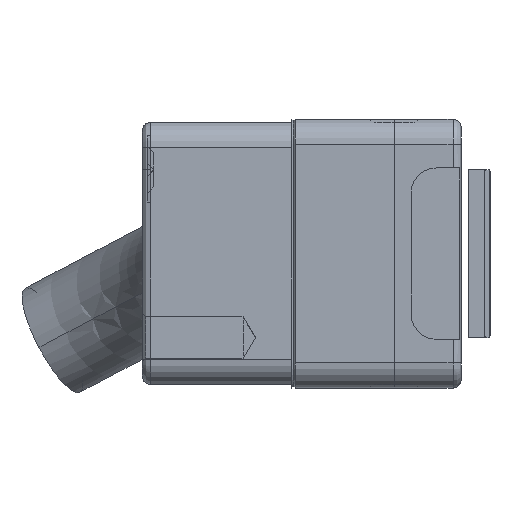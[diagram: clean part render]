
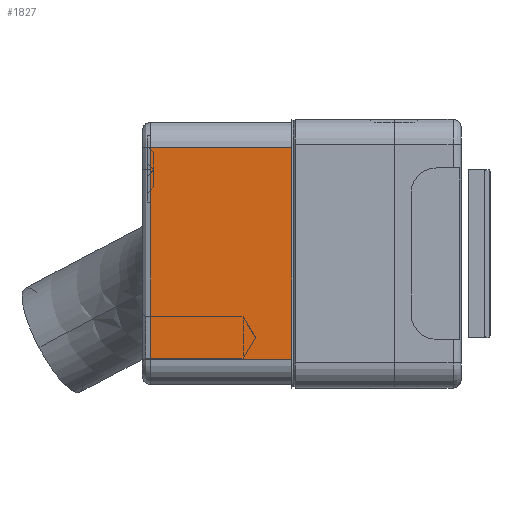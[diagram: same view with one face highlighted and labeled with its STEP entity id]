
A CAD part, left-side view. The second image highlights one B-rep face of the part: STEP entity #1827.
In plain terms, the highlighted planar face has unit normal (-1, 0, 0).
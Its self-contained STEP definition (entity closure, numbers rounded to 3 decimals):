
#76 = ORIENTED_EDGE ( 'NONE', *, *, #646, .T. ) ;
#587 = FACE_OUTER_BOUND ( 'NONE', #4530, .T. ) ;
#646 = EDGE_CURVE ( 'NONE', #1023, #8507, #2589, .T. ) ;
#725 = CARTESIAN_POINT ( 'NONE',  ( 0., 10.1, 1.708 ) ) ;
#802 = CARTESIAN_POINT ( 'NONE',  ( 0., 18.5, 1.708 ) ) ;
#983 = VECTOR ( 'NONE', #6936, 1000. ) ;
#1023 = VERTEX_POINT ( 'NONE', #725 ) ;
#1396 = EDGE_CURVE ( 'NONE', #7132, #2575, #4782, .T. ) ;
#1827 = ADVANCED_FACE ( 'NONE', ( #587 ), #2778, .F. ) ;
#1860 = CARTESIAN_POINT ( 'NONE',  ( 0., 18.5, 1.708 ) ) ;
#1865 = EDGE_CURVE ( 'NONE', #2575, #1023, #4872, .T. ) ;
#2575 = VERTEX_POINT ( 'NONE', #802 ) ;
#2589 = LINE ( 'NONE', #8470, #8460 ) ;
#2778 = PLANE ( 'NONE',  #8627 ) ;
#2977 = EDGE_CURVE ( 'NONE', #7132, #8507, #7647, .T. ) ;
#3275 = CARTESIAN_POINT ( 'NONE',  ( 0., 19., 14.325 ) ) ;
#4142 = CARTESIAN_POINT ( 'NONE',  ( 0., 19., 1.708 ) ) ;
#4530 = EDGE_LOOP ( 'NONE', ( #7536, #9435, #7474, #76 ) ) ;
#4782 = LINE ( 'NONE', #1860, #6131 ) ;
#4872 = LINE ( 'NONE', #4142, #983 ) ;
#5371 = VECTOR ( 'NONE', #8575, 1000. ) ;
#6004 = CARTESIAN_POINT ( 'NONE',  ( 0., 10.1, 14.325 ) ) ;
#6131 = VECTOR ( 'NONE', #8424, 1000. ) ;
#6485 = CARTESIAN_POINT ( 'NONE',  ( 0., 19., 1.708 ) ) ;
#6936 = DIRECTION ( 'NONE',  ( 0., -1., 0. ) ) ;
#6949 = CARTESIAN_POINT ( 'NONE',  ( 0., 18.5, 14.325 ) ) ;
#7132 = VERTEX_POINT ( 'NONE', #6949 ) ;
#7474 = ORIENTED_EDGE ( 'NONE', *, *, #1865, .T. ) ;
#7536 = ORIENTED_EDGE ( 'NONE', *, *, #2977, .F. ) ;
#7647 = LINE ( 'NONE', #3275, #5371 ) ;
#8424 = DIRECTION ( 'NONE',  ( 0., 0., -1. ) ) ;
#8460 = VECTOR ( 'NONE', #9251, 1000. ) ;
#8470 = CARTESIAN_POINT ( 'NONE',  ( 0., 10.1, 1.708 ) ) ;
#8507 = VERTEX_POINT ( 'NONE', #6004 ) ;
#8575 = DIRECTION ( 'NONE',  ( 0., -1., 0. ) ) ;
#8608 = DIRECTION ( 'NONE',  ( 0., 1., 0. ) ) ;
#8627 = AXIS2_PLACEMENT_3D ( 'NONE', #6485, #9341, #8608 ) ;
#9251 = DIRECTION ( 'NONE',  ( 0., 0., 1. ) ) ;
#9341 = DIRECTION ( 'NONE',  ( 1., 0., 0. ) ) ;
#9435 = ORIENTED_EDGE ( 'NONE', *, *, #1396, .T. ) ;
